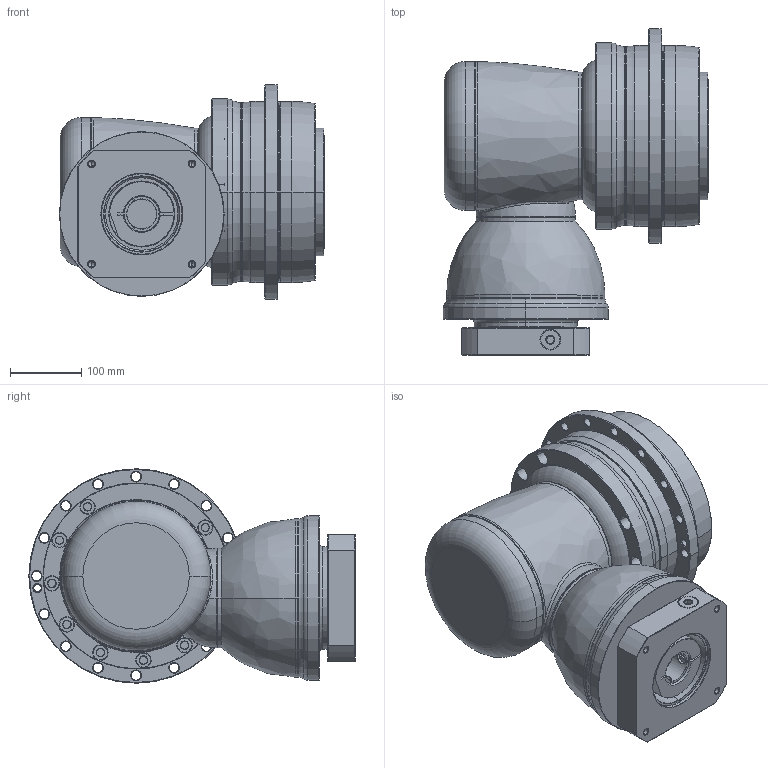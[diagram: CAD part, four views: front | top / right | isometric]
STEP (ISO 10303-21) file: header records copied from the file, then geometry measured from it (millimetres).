
FILE_DESCRIPTION((''),'2;1');
FILE_NAME('AHK255_2ST_42-P0409A00101_ASM','2016-10-17T',('d01943'),(''),'PRO/ENGINEER BY PARAMETRIC TECHNOLOGY CORPORATION, 2008410','PRO/ENGINEER BY PARAMETRIC TECHNOLOGY CORPORATION, 2008410','');
FILE_SCHEMA(('CONFIG_CONTROL_DESIGN'));
Length unit declared in the file: millimetre
Products named in the file (12): P1008600002; P1802700001; P0278700003; P0359700003; P1315600001; P1007600001; P1318600301; P0503A00012; P0912603201; P0409A00101; 21711422019; AHK255_2ST_42-P0409A00101_ASM
Assembly tree (11 placements, depth 2):
  AHK255_2ST_42-P0409A00101_ASM
    P1008600002
    P1802700001
    P0278700003
    P0359700003
    P1315600001
    P1007600001
    P1318600301
    P0503A00012
    P0912603201
    P0409A00101
    21711422019
Bounding box: 373.5 x 459.5 x 302 mm (x, y, z)
Volume: 16296152.2 mm3; surface area: 1337688.2 mm2
Topology: 12 solids, 12 shells, 932 faces, 2113 edges, 1232 vertices
Faces by surface type: cylinder 334, cone 300, plane 135, torus 126, bspline 35, sphere 2
Entity records: 32602 total; most frequent: CARTESIAN_POINT 11037, DIRECTION 4966, ORIENTED_EDGE 4134, AXIS2_PLACEMENT_3D 2130, EDGE_CURVE 2067, VERTEX_POINT 1232, CIRCLE 1210, EDGE_LOOP 1095
